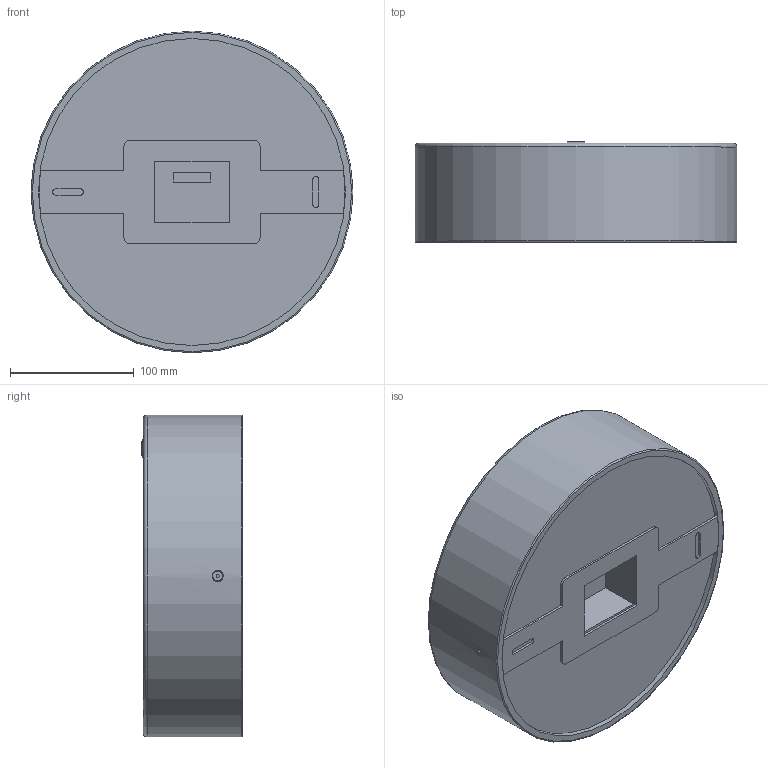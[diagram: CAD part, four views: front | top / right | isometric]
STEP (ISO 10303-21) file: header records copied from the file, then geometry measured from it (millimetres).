
FILE_DESCRIPTION(/* description */ (''),/* implementation_level */ '2;1');
FILE_NAME(/* name */ 'DA 250.stp',/* time_stamp */ '2024-05-21T13:08:48+02:00',/* author */ ('d.streicher'),/* organization */ (''),/* preprocessor_version */ 'ST-DEVELOPER v20',/* originating_system */ 'Autodesk Inventor 2025',/* authorisation */ '');
FILE_SCHEMA (('AUTOMOTIVE_DESIGN { 1 0 10303 214 3 1 1 }'));
Length unit declared in the file: millimetre
Products named in the file (1): DA 250 schwarz
Bounding box: 260 x 81.5 x 260 mm (x, y, z)
Volume: 3980264.3 mm3; surface area: 204561 mm2
Topology: 2 solids, 2 shells, 88 faces, 226 edges, 154 vertices
Faces by surface type: plane 64, cylinder 22, torus 2
Full cylindrical faces by diameter (mm): 8 x2, 9 x2, 248 x1, 260 x1
Entity records: 3002 total; most frequent: CARTESIAN_POINT 610, ORIENTED_EDGE 450, DIRECTION 447, EDGE_CURVE 225, LINE 159, VECTOR 159, VERTEX_POINT 152, AXIS2_PLACEMENT_3D 144
